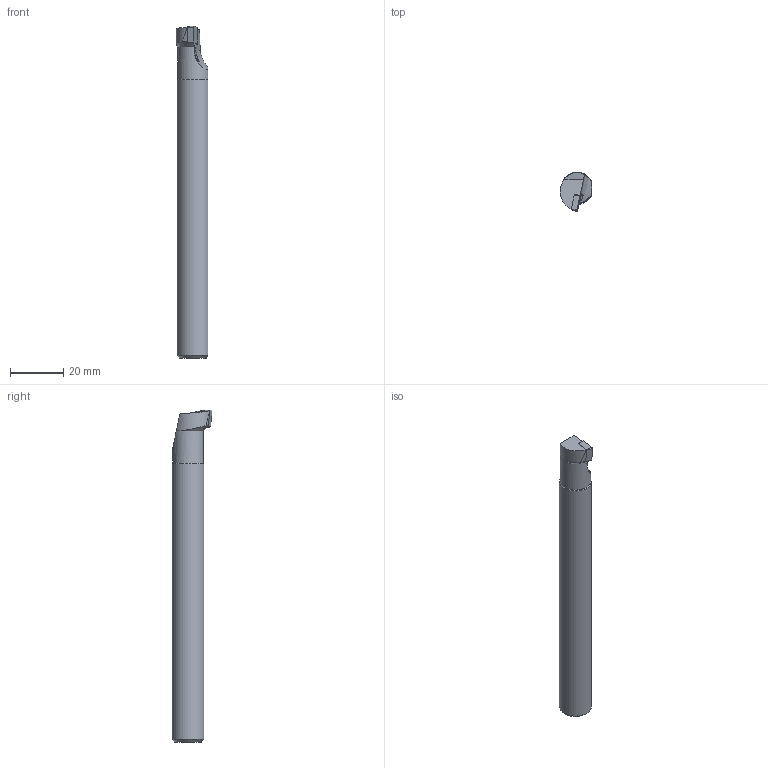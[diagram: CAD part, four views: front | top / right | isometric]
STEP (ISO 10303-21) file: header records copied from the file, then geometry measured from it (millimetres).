
FILE_DESCRIPTION(/* description */ (''),/* implementation_level */ '2;1');
FILE_NAME(/* name */ 'A12K-SCLCR-06-HAAS.stp',/* time_stamp */ '2021-09-29T09:16:46+09:00',/* author */ (''),/* organization */ (''),/* preprocessor_version */ 'ST-DEVELOPER v16.7',/* originating_system */ 'SIEMENS PLM Software NX 1946',/* authorisation */ '');
FILE_SCHEMA (('AUTOMOTIVE_DESIGN { 1 0 10303 214 3 1 1 1 }'));
Length unit declared in the file: millimetre
Products named in the file (1): user0130CD5E65nf
Bounding box: 11.85 x 15.01 x 124.98 mm (x, y, z)
Volume: 12545 mm3; surface area: 5962.3 mm2
Topology: 2 solids, 2 shells, 28 faces, 68 edges, 45 vertices
Faces by surface type: plane 13, cone 9, cylinder 6
Full cylindrical faces by diameter (mm): 2.5 x1, 3 x1
Entity records: 911 total; most frequent: CARTESIAN_POINT 232, DIRECTION 134, ORIENTED_EDGE 126, EDGE_CURVE 63, AXIS2_PLACEMENT_3D 54, VERTEX_POINT 43, EDGE_LOOP 34, ADVANCED_FACE 28
